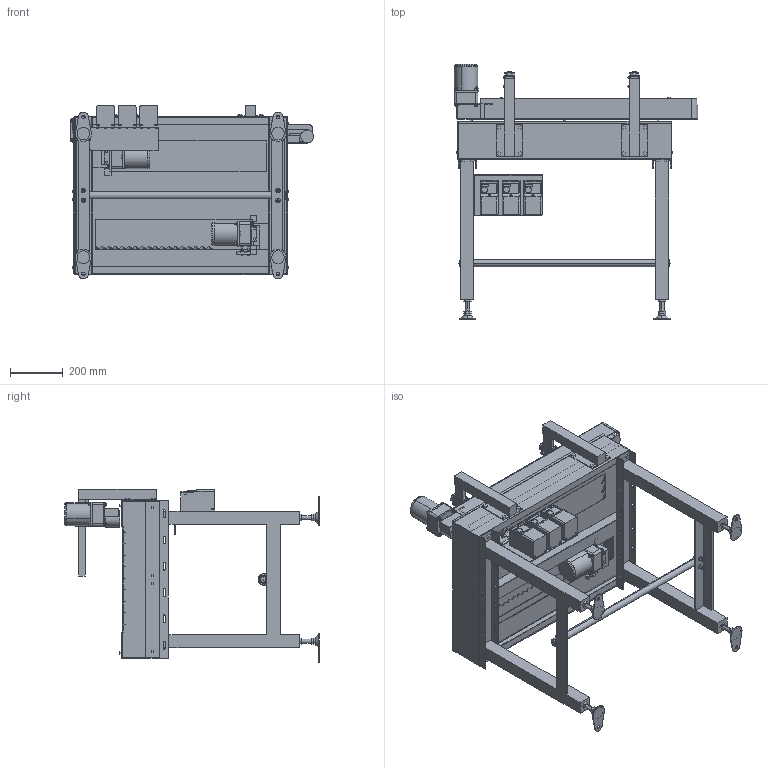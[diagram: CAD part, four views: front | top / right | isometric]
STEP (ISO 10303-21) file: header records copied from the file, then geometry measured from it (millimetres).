
FILE_DESCRIPTION( (''), '2;1');
FILE_NAME ('SGA-304x3-400-L-IVH-15-C.stp','2025-01-31T09:08:58',(''),(''),'spGate 20.6.2 (****-****-****-****)','','');
FILE_SCHEMA (('AUTOMOTIVE_DESIGN'));
Length unit declared in the file: millimetre
Products named in the file (91): NewModel; TEMP_X_T-prt0; TEMP_X_T-prt1; TEMP_X_T-prt2; TEMP_X_T-prt3; TEMP_X_T-prt4; TEMP_X_T-prt5; TEMP_X_T-prt6; TEMP_X_T-prt7; TEMP_X_T-prt8; TEMP_X_T-prt9; TEMP_X_T-prt10; TEMP_X_T-prt11; TEMP_X_T-prt12; TEMP_X_T-prt13; TEMP_X_T-prt14; TEMP_X_T-prt15; TEMP_X_T-prt16; TEMP_X_T-prt17; TEMP_X_T-prt18; TEMP_X_T-prt19; TEMP_X_T-prt20; TEMP_X_T-prt21; TEMP_X_T-prt22; TEMP_X_T-prt23; TEMP_X_T-prt24; TEMP_X_T-prt25; TEMP_X_T-prt26; TEMP_X_T-prt27; TEMP_X_T-prt28; TEMP_X_T-prt29; TEMP_X_T-prt30; TEMP_X_T-prt31; TEMP_X_T-prt32; TEMP_X_T-prt33; TEMP_X_T-prt34; TEMP_X_T-prt35; TEMP_X_T-prt36; TEMP_X_T-prt37; TEMP_X_T-prt38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
Assembly tree (90 placements, depth 2):
  NewModel
    TEMP_X_T-prt0
    TEMP_X_T-prt1
    TEMP_X_T-prt2
    TEMP_X_T-prt3
    TEMP_X_T-prt4
    TEMP_X_T-prt5
    TEMP_X_T-prt6
    TEMP_X_T-prt7
    TEMP_X_T-prt8
    TEMP_X_T-prt9
    TEMP_X_T-prt10
    TEMP_X_T-prt11
    TEMP_X_T-prt12
    TEMP_X_T-prt13
    TEMP_X_T-prt14
    TEMP_X_T-prt15
    TEMP_X_T-prt16
    TEMP_X_T-prt17
    TEMP_X_T-prt18
    TEMP_X_T-prt19
    TEMP_X_T-prt20
    TEMP_X_T-prt21
    TEMP_X_T-prt22
    TEMP_X_T-prt23
    TEMP_X_T-prt24
    TEMP_X_T-prt25
    TEMP_X_T-prt26
    TEMP_X_T-prt27
    TEMP_X_T-prt28
    TEMP_X_T-prt29
    TEMP_X_T-prt30
    TEMP_X_T-prt31
    TEMP_X_T-prt32
    TEMP_X_T-prt33
    TEMP_X_T-prt34
    TEMP_X_T-prt35
    TEMP_X_T-prt36
    TEMP_X_T-prt37
    TEMP_X_T-prt38
    TEMP_X_T-prt39
    TEMP_X_T-prt40
    TEMP_X_T-prt41
    TEMP_X_T-prt42
    TEMP_X_T-prt43
    TEMP_X_T-prt44
    TEMP_X_T-prt45
    TEMP_X_T-prt46
    TEMP_X_T-prt47
    TEMP_X_T-prt48
    TEMP_X_T-prt49
    TEMP_X_T-prt50
    TEMP_X_T-prt51
    TEMP_X_T-prt52
    TEMP_X_T-prt53
    TEMP_X_T-prt54
    TEMP_X_T-prt55
    TEMP_X_T-prt56
    TEMP_X_T-prt57
    TEMP_X_T-prt58
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Bounding box: 925.9 x 969.4 x 660 mm (x, y, z)
Volume: 24488991.5 mm3; surface area: 5507058.3 mm2
Topology: 90 solids, 90 shells, 3255 faces, 8046 edges, 5144 vertices
Faces by surface type: plane 2146, cylinder 750, bspline 343, sphere 16
Entity records: 167022 total; most frequent: CARTESIAN_POINT 24046, ORIENTED_EDGE 16004, DIRECTION 15041, COLOUR_RGB 11347, PRESENTATION_STYLE_ASSIGNMENT 11347, STYLED_ITEM 11347, EDGE_CURVE 8002, DRAUGHTING_PRE_DEFINED_CURVE_FONT 8002
